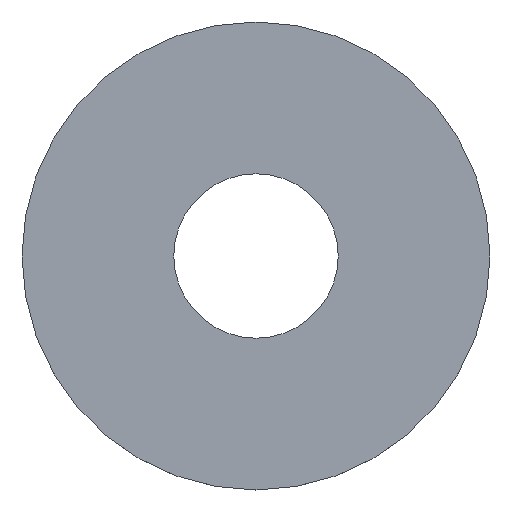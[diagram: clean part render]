
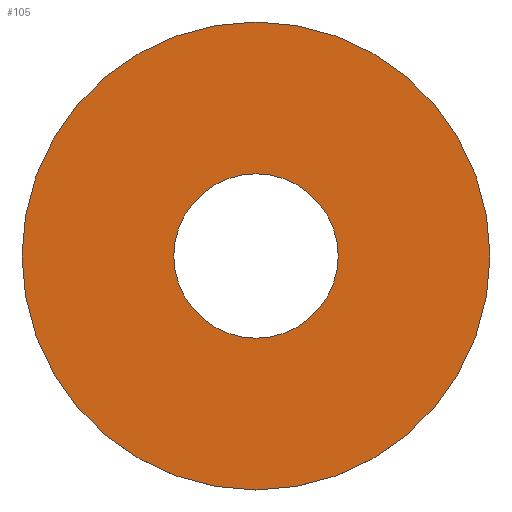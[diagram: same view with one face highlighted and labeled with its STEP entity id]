
A CAD part, top view. The second image highlights one B-rep face of the part: STEP entity #105.
In plain terms, the highlighted planar face has unit normal (0, 0, 1).
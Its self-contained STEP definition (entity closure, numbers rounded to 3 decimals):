
#21 = EDGE_CURVE('',#22,#22,#24,.T.);
#22 = VERTEX_POINT('',#23);
#23 = CARTESIAN_POINT('',(7.4,0.,-2.2));
#24 = SURFACE_CURVE('',#25,(#30,#42),.PCURVE_S1.);
#25 = CIRCLE('',#26,7.4);
#26 = AXIS2_PLACEMENT_3D('',#27,#28,#29);
#27 = CARTESIAN_POINT('',(0.,0.,-2.2));
#28 = DIRECTION('',(0.,0.,1.));
#29 = DIRECTION('',(1.,0.,-0.));
#30 = PCURVE('',#31,#36);
#31 = CYLINDRICAL_SURFACE('',#32,7.4);
#32 = AXIS2_PLACEMENT_3D('',#33,#34,#35);
#33 = CARTESIAN_POINT('',(0.,0.,-2.6));
#34 = DIRECTION('',(0.,0.,1.));
#35 = DIRECTION('',(1.,0.,-0.));
#36 = DEFINITIONAL_REPRESENTATION('',(#37),#41);
#37 = LINE('',#38,#39);
#38 = CARTESIAN_POINT('',(0.,0.4));
#39 = VECTOR('',#40,1.);
#40 = DIRECTION('',(1.,0.));
#41 = ( GEOMETRIC_REPRESENTATION_CONTEXT(2) 
PARAMETRIC_REPRESENTATION_CONTEXT() REPRESENTATION_CONTEXT('2D SPACE',''
  ) );
#42 = PCURVE('',#43,#48);
#43 = PLANE('',#44);
#44 = AXIS2_PLACEMENT_3D('',#45,#46,#47);
#45 = CARTESIAN_POINT('',(0.,0.,-2.2));
#46 = DIRECTION('',(0.,0.,1.));
#47 = DIRECTION('',(1.,0.,-0.));
#48 = DEFINITIONAL_REPRESENTATION('',(#49),#53);
#49 = CIRCLE('',#50,7.4);
#50 = AXIS2_PLACEMENT_2D('',#51,#52);
#51 = CARTESIAN_POINT('',(0.,0.));
#52 = DIRECTION('',(1.,0.));
#53 = ( GEOMETRIC_REPRESENTATION_CONTEXT(2) 
PARAMETRIC_REPRESENTATION_CONTEXT() REPRESENTATION_CONTEXT('2D SPACE',''
  ) );
#105 = ADVANCED_FACE('',(#106,#109),#43,.T.);
#106 = FACE_BOUND('',#107,.T.);
#107 = EDGE_LOOP('',(#108));
#108 = ORIENTED_EDGE('',*,*,#21,.T.);
#109 = FACE_BOUND('',#110,.T.);
#110 = EDGE_LOOP('',(#111));
#111 = ORIENTED_EDGE('',*,*,#112,.F.);
#112 = EDGE_CURVE('',#113,#113,#115,.T.);
#113 = VERTEX_POINT('',#114);
#114 = CARTESIAN_POINT('',(2.6,0.,-2.2));
#115 = SURFACE_CURVE('',#116,(#121,#128),.PCURVE_S1.);
#116 = CIRCLE('',#117,2.6);
#117 = AXIS2_PLACEMENT_3D('',#118,#119,#120);
#118 = CARTESIAN_POINT('',(0.,0.,-2.2));
#119 = DIRECTION('',(0.,0.,1.));
#120 = DIRECTION('',(1.,0.,-0.));
#121 = PCURVE('',#43,#122);
#122 = DEFINITIONAL_REPRESENTATION('',(#123),#127);
#123 = CIRCLE('',#124,2.6);
#124 = AXIS2_PLACEMENT_2D('',#125,#126);
#125 = CARTESIAN_POINT('',(0.,0.));
#126 = DIRECTION('',(1.,0.));
#127 = ( GEOMETRIC_REPRESENTATION_CONTEXT(2) 
PARAMETRIC_REPRESENTATION_CONTEXT() REPRESENTATION_CONTEXT('2D SPACE',''
  ) );
#128 = PCURVE('',#129,#134);
#129 = CYLINDRICAL_SURFACE('',#130,2.6);
#130 = AXIS2_PLACEMENT_3D('',#131,#132,#133);
#131 = CARTESIAN_POINT('',(0.,0.,-2.61));
#132 = DIRECTION('',(0.,0.,1.));
#133 = DIRECTION('',(1.,0.,-0.));
#134 = DEFINITIONAL_REPRESENTATION('',(#135),#139);
#135 = LINE('',#136,#137);
#136 = CARTESIAN_POINT('',(0.,0.41));
#137 = VECTOR('',#138,1.);
#138 = DIRECTION('',(1.,0.));
#139 = ( GEOMETRIC_REPRESENTATION_CONTEXT(2) 
PARAMETRIC_REPRESENTATION_CONTEXT() REPRESENTATION_CONTEXT('2D SPACE',''
  ) );
